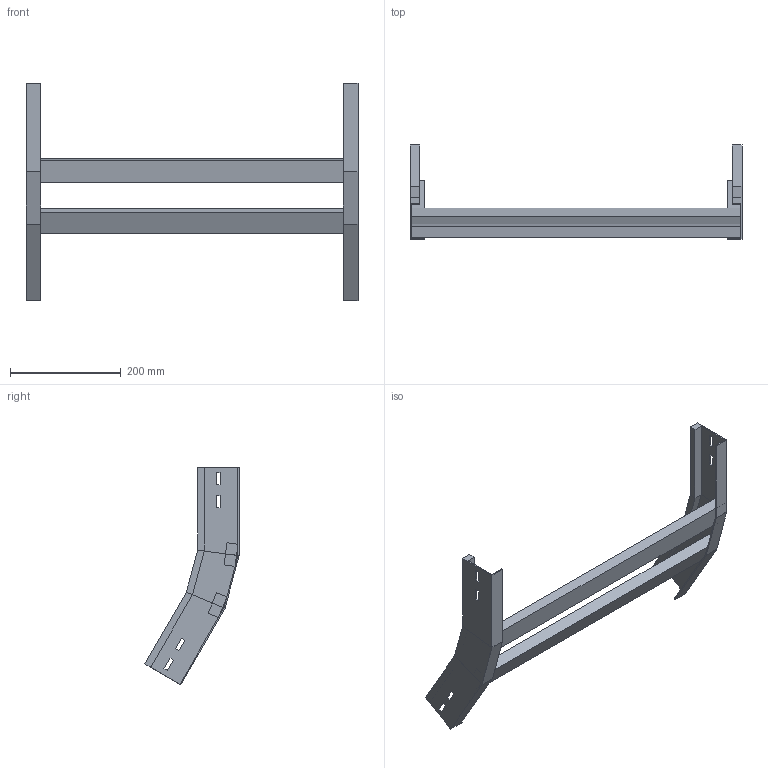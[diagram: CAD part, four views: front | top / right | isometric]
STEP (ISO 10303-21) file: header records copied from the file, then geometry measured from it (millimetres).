
FILE_DESCRIPTION (( 'STEP AP214' ), '1' );
FILE_NAME ('A2X32B3C600XX.step', '2025-03-20T10:01:39', ( '' ), ( '' ), 'SwSTEP 2.0', 'SolidWorks 2023', '' );
FILE_SCHEMA (( 'AUTOMOTIVE_DESIGN' ));
Length unit declared in the file: millimetre
Products named in the file (3): TRAVERSINO_600; A2X32B3C600XX; LONGH.SALITA_30°_H75_R300
Assembly tree (4 placements, depth 2):
  A2X32B3C600XX
    LONGH.SALITA_30°_H75_R300  x2
    TRAVERSINO_600  x2
Bounding box: 600 x 170.24 x 392.95 mm (x, y, z)
Volume: 1270602.7 mm3; surface area: 336197.9 mm2
Topology: 4 solids, 4 shells, 96 faces, 232 edges, 144 vertices
Faces by surface type: plane 96
Entity records: 1472 total; most frequent: CARTESIAN_POINT 243, ORIENTED_EDGE 232, DIRECTION 226, EDGE_CURVE 116, VECTOR 116, LINE 116, VERTEX_POINT 72, EDGE_LOOP 56
